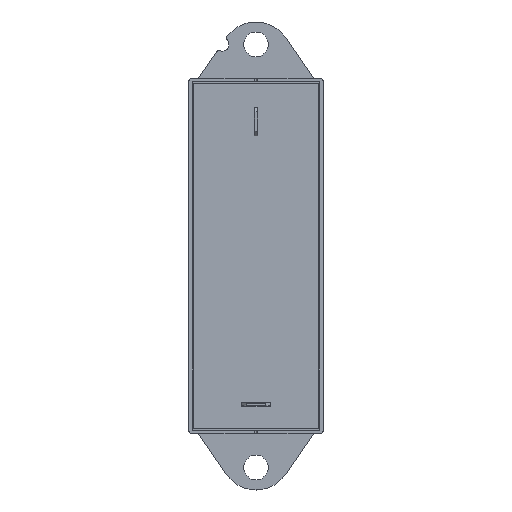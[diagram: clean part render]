
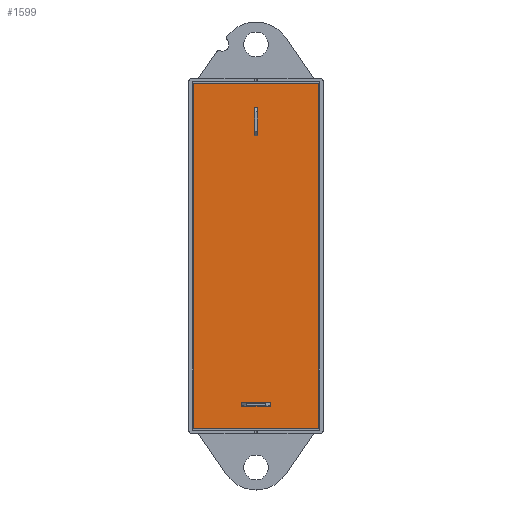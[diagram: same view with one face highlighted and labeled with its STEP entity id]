
A CAD part, top view. The second image highlights one B-rep face of the part: STEP entity #1599.
In plain terms, the highlighted planar face has unit normal (0, 0, 1).
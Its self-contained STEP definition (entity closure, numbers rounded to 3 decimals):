
#36=FACE_BOUND('',#213,.T.);
#37=FACE_BOUND('',#214,.T.);
#123=FACE_OUTER_BOUND('',#212,.T.);
#212=EDGE_LOOP('',(#1152,#1153,#1154,#1155));
#213=EDGE_LOOP('',(#1156,#1157,#1158,#1159));
#214=EDGE_LOOP('',(#1160,#1161,#1162,#1163));
#275=LINE('',#2269,#454);
#290=LINE('',#2299,#469);
#292=LINE('',#2303,#471);
#294=LINE('',#2306,#473);
#295=LINE('',#2310,#474);
#299=LINE('',#2318,#478);
#302=LINE('',#2324,#481);
#314=LINE('',#2347,#493);
#341=LINE('',#2421,#520);
#345=LINE('',#2429,#524);
#352=LINE('',#2441,#531);
#354=LINE('',#2444,#533);
#454=VECTOR('',#1812,10.);
#469=VECTOR('',#1839,10.);
#471=VECTOR('',#1843,10.);
#473=VECTOR('',#1847,10.);
#474=VECTOR('',#1850,10.);
#478=VECTOR('',#1856,10.);
#481=VECTOR('',#1861,10.);
#493=VECTOR('',#1885,10.);
#520=VECTOR('',#1946,10.);
#524=VECTOR('',#1952,10.);
#531=VECTOR('',#1963,10.);
#533=VECTOR('',#1967,10.);
#633=VERTEX_POINT('',#2267);
#634=VERTEX_POINT('',#2268);
#643=VERTEX_POINT('',#2298);
#644=VERTEX_POINT('',#2302);
#645=VERTEX_POINT('',#2308);
#646=VERTEX_POINT('',#2309);
#649=VERTEX_POINT('',#2317);
#651=VERTEX_POINT('',#2323);
#685=VERTEX_POINT('',#2419);
#686=VERTEX_POINT('',#2420);
#689=VERTEX_POINT('',#2428);
#692=VERTEX_POINT('',#2440);
#779=EDGE_CURVE('',#633,#634,#275,.T.);
#794=EDGE_CURVE('',#634,#643,#290,.T.);
#796=EDGE_CURVE('',#644,#633,#292,.T.);
#798=EDGE_CURVE('',#643,#644,#294,.T.);
#799=EDGE_CURVE('',#645,#646,#295,.T.);
#803=EDGE_CURVE('',#646,#649,#299,.T.);
#806=EDGE_CURVE('',#651,#645,#302,.T.);
#818=EDGE_CURVE('',#649,#651,#314,.T.);
#853=EDGE_CURVE('',#685,#686,#341,.T.);
#857=EDGE_CURVE('',#686,#689,#345,.T.);
#864=EDGE_CURVE('',#692,#685,#352,.T.);
#866=EDGE_CURVE('',#689,#692,#354,.T.);
#1152=ORIENTED_EDGE('',*,*,#853,.T.);
#1153=ORIENTED_EDGE('',*,*,#857,.T.);
#1154=ORIENTED_EDGE('',*,*,#866,.T.);
#1155=ORIENTED_EDGE('',*,*,#864,.T.);
#1156=ORIENTED_EDGE('',*,*,#779,.T.);
#1157=ORIENTED_EDGE('',*,*,#794,.T.);
#1158=ORIENTED_EDGE('',*,*,#798,.T.);
#1159=ORIENTED_EDGE('',*,*,#796,.T.);
#1160=ORIENTED_EDGE('',*,*,#799,.T.);
#1161=ORIENTED_EDGE('',*,*,#803,.T.);
#1162=ORIENTED_EDGE('',*,*,#818,.T.);
#1163=ORIENTED_EDGE('',*,*,#806,.T.);
#1497=PLANE('',#1709);
#1599=ADVANCED_FACE('',(#123,#36,#37),#1497,.T.);
#1709=AXIS2_PLACEMENT_3D('',#2445,#1968,#1969);
#1812=DIRECTION('',(-1.,0.,0.));
#1839=DIRECTION('',(0.,1.,0.));
#1843=DIRECTION('',(0.,-1.,0.));
#1847=DIRECTION('',(1.,0.,0.));
#1850=DIRECTION('',(0.,1.,0.));
#1856=DIRECTION('',(1.,0.,0.));
#1861=DIRECTION('',(-1.,0.,0.));
#1885=DIRECTION('',(0.,-1.,0.));
#1946=DIRECTION('',(0.,1.,0.));
#1952=DIRECTION('',(-1.,0.,0.));
#1963=DIRECTION('',(1.,0.,0.));
#1967=DIRECTION('',(0.,-1.,0.));
#1968=DIRECTION('center_axis',(0.,0.,1.));
#1969=DIRECTION('ref_axis',(1.,0.,0.));
#2267=CARTESIAN_POINT('',(0.4,26.65,9.4));
#2268=CARTESIAN_POINT('',(-0.4,26.65,9.4));
#2269=CARTESIAN_POINT('',(0.3,26.65,9.4));
#2298=CARTESIAN_POINT('',(-0.4,33.,9.4));
#2299=CARTESIAN_POINT('',(-0.4,14.912,9.4));
#2302=CARTESIAN_POINT('',(0.4,33.,9.4));
#2303=CARTESIAN_POINT('',(0.4,14.912,9.4));
#2306=CARTESIAN_POINT('',(0.3,33.,9.4));
#2308=CARTESIAN_POINT('',(-3.175,-33.4,9.4));
#2309=CARTESIAN_POINT('',(-3.175,-32.6,9.4));
#2310=CARTESIAN_POINT('',(-3.175,-16.2,9.4));
#2317=CARTESIAN_POINT('',(3.175,-32.6,9.4));
#2318=CARTESIAN_POINT('',(0.,-32.6,9.4));
#2323=CARTESIAN_POINT('',(3.175,-33.4,9.4));
#2324=CARTESIAN_POINT('',(0.,-33.4,9.4));
#2347=CARTESIAN_POINT('',(3.175,-16.2,9.4));
#2419=CARTESIAN_POINT('',(13.9,-38.4,9.4));
#2420=CARTESIAN_POINT('',(13.9,38.4,9.4));
#2421=CARTESIAN_POINT('',(13.9,-19.2,9.4));
#2428=CARTESIAN_POINT('',(-13.9,38.4,9.4));
#2429=CARTESIAN_POINT('',(6.95,38.4,9.4));
#2440=CARTESIAN_POINT('',(-13.9,-38.4,9.4));
#2441=CARTESIAN_POINT('',(6.95,-38.4,9.4));
#2444=CARTESIAN_POINT('',(-13.9,-19.2,9.4));
#2445=CARTESIAN_POINT('Origin',(0.,0.,
9.4));
